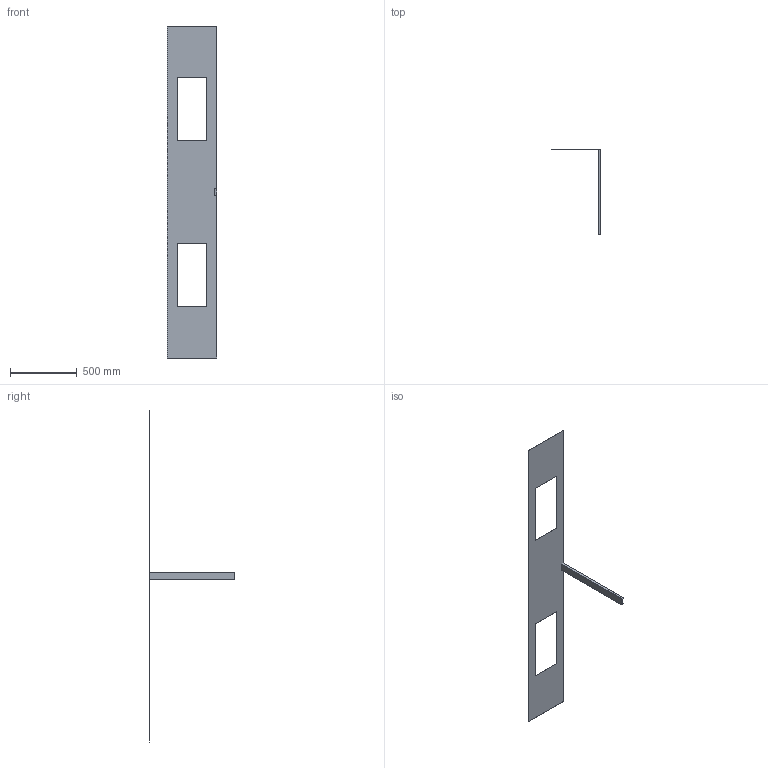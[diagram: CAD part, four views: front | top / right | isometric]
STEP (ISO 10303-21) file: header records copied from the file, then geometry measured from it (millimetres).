
FILE_DESCRIPTION((''),'2;1');
FILE_NAME('DESSUS_ARMOIRE','2017-03-11T',('Jaunin'),(''),'CREO PARAMETRIC BY PTC INC, 2016130','CREO PARAMETRIC BY PTC INC, 2016130','');
FILE_SCHEMA(('CONFIG_CONTROL_DESIGN'));
Length unit declared in the file: millimetre
Products named in the file (1): DESSUS_ARMOIRE
Bounding box: 370 x 640 x 2480 mm (x, y, z)
Volume: 1525716 mm3; surface area: 1545260 mm2
Topology: 1 solids, 1 shells, 22 faces, 60 edges, 40 vertices
Faces by surface type: plane 22
Entity records: 730 total; most frequent: CARTESIAN_POINT 122, ORIENTED_EDGE 120, DIRECTION 104, VECTOR 60, LINE 60, EDGE_CURVE 60, VERTEX_POINT 40, EDGE_LOOP 26
